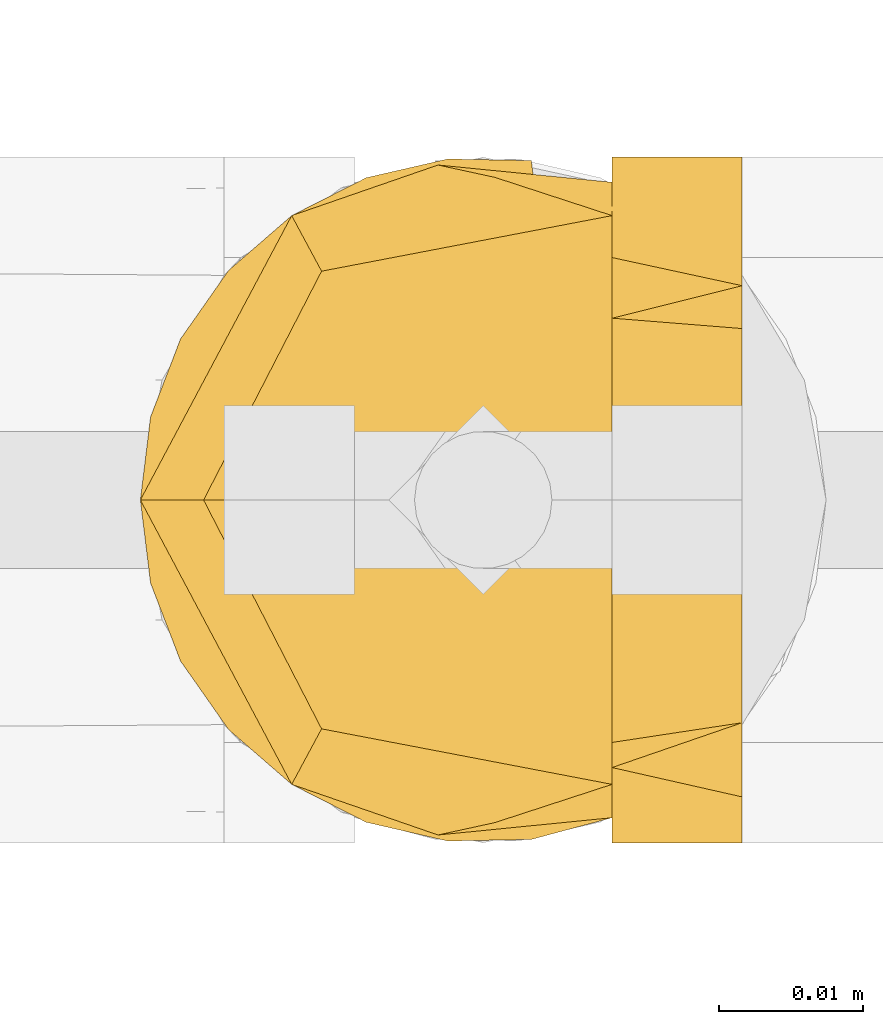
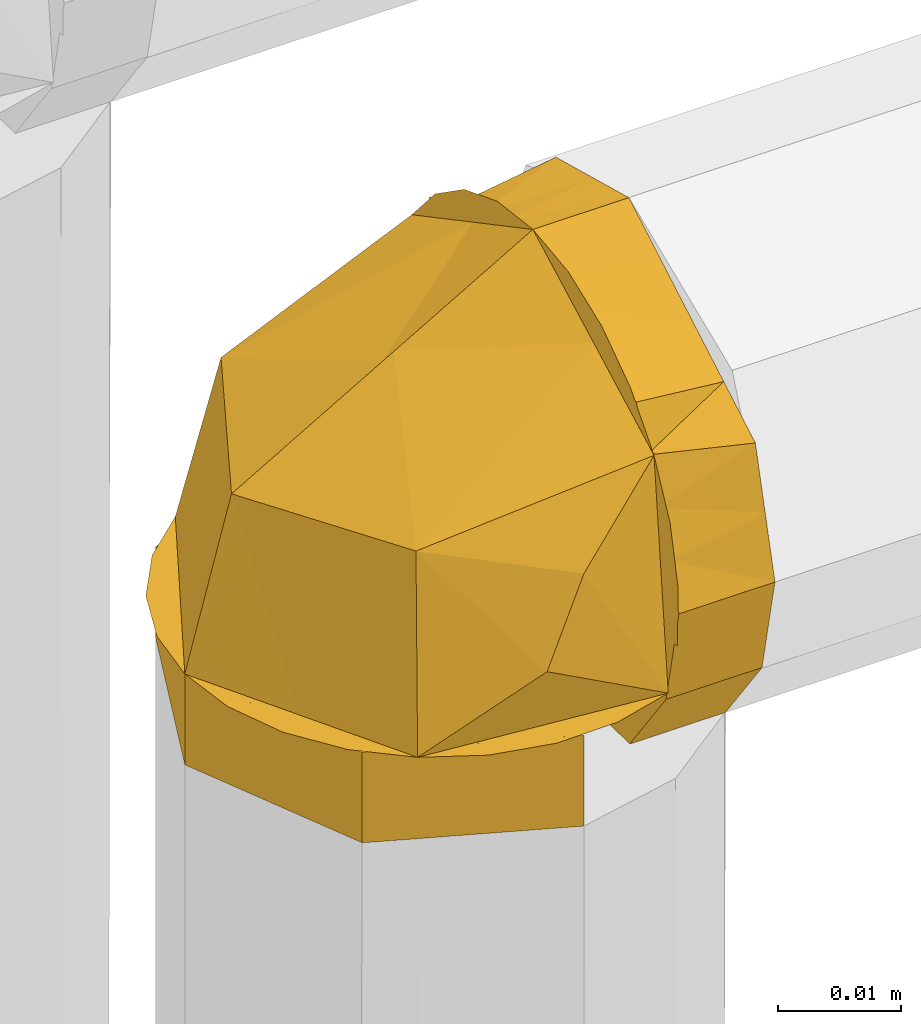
# One storey, part 326 of 652: 1 covering.
"""IFC2X3 building model written with IfcOpenShell, lengths in millimetres."""

from ifc_helpers import new_model, entity, si_unit, converted_unit, direction, frame, origin, place, context, subcontext, project, spatial, face_set, surface_model, material, type_object, element, save


model = new_model("IFC2X3")

# Units and contexts
model_context = context("Model", 3, precision=0.01, world=frame((0.0, 0.0, 308426.39999999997)), true_north=direction((6.123233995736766e-17, 1.0)))
plan_context = context("Plan", 3, precision=0.01, world=frame((0.0, 0.0, 308426.39999999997)), true_north=direction((6.123233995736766e-17, 1.0)))
body_context = subcontext(model_context, "Body", "Model", "MODEL_VIEW")
ifc_project = project(units=[si_unit("LENGTHUNIT", "METRE", prefix="MILLI"), si_unit("AREAUNIT", "SQUARE_METRE"), si_unit("VOLUMEUNIT", "CUBIC_METRE"), converted_unit("PLANEANGLEUNIT", "DEGREE", entity("IfcPlaneAngleMeasure", 0.017453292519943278), si_unit("PLANEANGLEUNIT", "RADIAN"), dimensions=[0, 0, 0, 0, 0, 0, 0])], contexts=[model_context, plan_context])

# Site, building, storey
site_placement = place(None, origin())
site = spatial("IfcSite", under=ifc_project, at=site_placement, Name="Default", CompositionType="ELEMENT")
building_placement = place(site_placement, origin())
building = spatial("IfcBuilding", under=site, at=building_placement, CompositionType="ELEMENT")
storey_placement = place(building_placement, frame((0.0, 0.0, 1730.6999999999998)))
storey = spatial("IfcBuildingStorey", under=building, at=storey_placement, Name="EG_Produktion_FFB", CompositionType="ELEMENT", Elevation=1730.6999999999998)

# Covering
ifc_material = material(Name="Dämmung - Armaflex-Schlauch")
covering_type = type_object("IfcCoveringType", Name="Rohrdämmung außen:Armaflex-Schlauch", PredefinedType="INSULATION")
covering_placement = place(storey_placement, frame((41284.00441089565, 54866.678785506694, 3280.611079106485)))
element("IfcCovering", 1, at=covering_placement, inside=storey, type_object=covering_type, material=ifc_material, Name="Rohrdämmung außen:Armaflex-Schlauch", ObjectType="Rohrdämmung außen:Armaflex-Schlauch", PredefinedType="INSULATION", context=body_context, shape_type="SurfaceModel", body=[
    surface_model("IfcFaceBasedSurfaceModel", [(34.28827223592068, 3.3372686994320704, 10.458420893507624), (28.691896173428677, 1.8303409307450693, 10.458420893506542), (22.897179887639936, 1.7230119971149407, 10.458420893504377), (17.248839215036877, 3.0216666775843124, 10.458420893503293), (12.082882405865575, 5.649050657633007, 10.45842089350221), (7.706621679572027, 9.448866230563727, 10.458420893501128), (4.380391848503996, 14.19507012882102, 10.458420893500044), (2.3020635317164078, 19.605320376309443, 10.458420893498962), (1.5952722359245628, 25.35777223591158, 10.458420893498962), (2.3020635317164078, 31.11022409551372, 10.458420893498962), (4.380391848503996, 36.52047434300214, 10.458420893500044), (7.706621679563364, 41.266678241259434, 10.458420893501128), (12.082882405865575, 45.06649381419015, 10.45842089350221), (17.248839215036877, 47.69387779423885, 10.458420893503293), (22.897179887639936, 48.99253247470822, 10.458420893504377), (28.691896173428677, 48.88520354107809, 10.458420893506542), (34.28827223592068, 47.37827577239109, 10.458420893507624), (34.28827223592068, 1.8303409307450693, 16.05479695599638), (34.28827223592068, 1.7230119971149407, 21.849513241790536), (34.28827223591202, 3.0216666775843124, 27.49785391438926), (34.28827223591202, 5.649050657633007, 32.6638107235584), (34.28827223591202, 9.448866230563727, 37.04007144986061), (34.28827223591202, 14.19507012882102, 40.366301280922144), (34.28827223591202, 19.605320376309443, 42.44462959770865), (34.28827223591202, 25.35777223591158, 43.151420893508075), (34.28827223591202, 31.11022409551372, 42.44462959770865), (34.28827223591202, 36.52047434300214, 40.366301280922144), (34.28827223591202, 41.266678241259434, 37.04007144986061), (34.28827223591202, 45.06649381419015, 32.66381072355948), (34.28827223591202, 47.69387779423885, 27.497853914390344), (34.28827223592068, 48.99253247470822, 21.849513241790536), (34.28827223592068, 48.88520354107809, 16.05479695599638), (26.167085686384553, 2.9999376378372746, 25.365208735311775), (14.153865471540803, 9.497215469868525, 27.87959014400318), (34.28752025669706, 4.478917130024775, 21.43230926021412), (6.777571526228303, 15.617772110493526, 10.458560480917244), (5.977620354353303, 25.356712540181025, 26.80465575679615), (34.28752025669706, 15.501500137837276, 37.90746642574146), (21.218550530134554, 25.356712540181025, 35.606444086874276), (22.223140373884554, 2.1395250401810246, 17.53836089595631), (23.185872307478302, 4.4928697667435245, 10.458560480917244), (26.167085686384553, 47.71813832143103, 25.365208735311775), (22.223140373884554, 48.57390004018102, 17.53836089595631), (14.153865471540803, 41.21620961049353, 27.87959014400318), (6.777571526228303, 35.095652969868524, 10.458560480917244), (34.28752025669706, 46.234507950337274, 21.43230926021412), (34.28752025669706, 35.095652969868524, 37.96850921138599), (20.130244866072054, 25.356712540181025, 34.977994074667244), (23.185872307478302, 46.220555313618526, 10.458560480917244), (25.357832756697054, 1.5953722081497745, 1.4387622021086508), (25.357832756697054, 1.5953722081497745, 10.458560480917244), (8.554207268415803, 8.553087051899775, 10.458560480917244), (8.554207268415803, 8.553087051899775, 1.4387622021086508), (1.596492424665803, 25.356712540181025, 10.458560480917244), (1.596492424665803, 25.356712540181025, 1.4387622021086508), (8.554207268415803, 42.16033802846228, 10.458560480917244), (8.554207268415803, 42.16033802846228, 1.4387622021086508), (25.357832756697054, 49.118052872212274, 10.458560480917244), (25.357832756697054, 49.118052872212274, 1.4387622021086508), (43.30802223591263, 46.14995973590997, 24.533653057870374), (43.30802223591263, 43.179647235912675, 29.67838522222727), (43.30802223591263, 40.209334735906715, 34.823117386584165), (43.30802223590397, 37.239022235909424, 39.96784955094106), (43.30802223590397, 31.29839723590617, 41.55963522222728), (43.30802223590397, 25.35777223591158, 43.15142089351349), (43.30802223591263, 20.21304007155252, 40.18110839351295), (43.30802223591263, 15.068307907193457, 37.210795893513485), (43.30802223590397, 9.92357574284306, 34.240483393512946), (43.30802223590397, 4.778843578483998, 31.270170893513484), (43.30802223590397, 3.1870579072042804, 25.32954589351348), (43.30802223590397, 1.5952722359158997, 19.38892089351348), (43.30802223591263, 2.6431209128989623, 14.510241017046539), (43.30802223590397, 3.690969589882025, 9.631561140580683), (43.30802223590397, 6.64968879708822, 5.613416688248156), (43.30802223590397, 9.608408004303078, 1.595272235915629), (43.30802223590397, 41.107136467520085, 1.595272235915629), (43.30802223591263, 44.06585567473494, 5.613416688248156), (43.30802223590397, 47.024574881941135, 9.631561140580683), (43.30802223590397, 48.0724235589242, 14.510241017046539), (43.30802223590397, 49.12027223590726, 19.38892089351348), (34.28827223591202, 42.160397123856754, 36.19154578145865), (34.28827223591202, 43.90036590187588, 31.990889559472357), (34.28827223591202, 45.64033467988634, 27.790233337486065), (34.28827223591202, 47.3803034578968, 23.589577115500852), (34.28827223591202, 49.12027223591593, 19.38892089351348), (34.28827223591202, 48.0724235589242, 14.510241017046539), (34.28827223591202, 47.024574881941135, 9.6315611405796), (34.28827223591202, 43.985875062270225, 5.5047975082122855), (34.28827223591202, 41.10713646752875, 1.595272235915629), (34.28827223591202, 9.608408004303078, 1.595272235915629), (34.28827223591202, 6.64968879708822, 5.613416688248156), (34.28827223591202, 3.690969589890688, 9.6315611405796), (34.28827223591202, 2.614795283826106, 14.64212234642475), (34.28827223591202, 1.5952722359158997, 19.38892089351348), (34.28827223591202, 3.3352410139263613, 23.58957711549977), (34.28827223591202, 5.075209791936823, 27.790233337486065), (34.28827223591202, 6.815178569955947, 31.990889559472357), (34.28827223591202, 8.55514734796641, 36.19154578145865), (34.28827223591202, 12.755803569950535, 37.93151455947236), (34.28827223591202, 16.956459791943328, 39.67148333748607), (34.28827223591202, 21.157116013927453, 41.41145211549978), (34.28827223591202, 25.35777223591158, 43.15142089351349), (34.28827223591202, 29.558428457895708, 41.41145211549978), (34.28827223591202, 33.759084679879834, 39.67148333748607), (34.28827223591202, 37.95974090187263, 37.93151455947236)], [face_set([[[0, 1, 2, 3, 4, 5, 6, 7, 8, 9, 10, 11, 12, 13, 14, 15]], [[16, 17, 18, 19, 20, 21, 22, 23, 24, 25, 26, 27, 28, 29, 30, 31]], [[32, 20, 33]], [[32, 34, 20]], [[33, 35, 4]], [[35, 33, 36]], [[36, 8, 35]], [[33, 37, 38]], [[39, 4, 40]], [[32, 33, 39]], [[34, 32, 0]], [[4, 39, 33]], [[38, 36, 33]], [[0, 32, 39]], [[33, 20, 37]], [[37, 24, 38]], [[0, 39, 40]], [[41, 16, 42]], [[43, 44, 36]], [[28, 45, 41]], [[46, 43, 47]], [[44, 8, 36]], [[12, 43, 42]], [[44, 43, 12]], [[42, 16, 48]], [[28, 43, 46]], [[16, 41, 45]], [[43, 41, 42]], [[43, 36, 47]], [[47, 24, 46]], [[28, 41, 43]], [[48, 12, 42]]]), face_set([[[49, 50, 51, 52]], [[53, 54, 52, 51]], [[54, 53, 55, 56]], [[57, 58, 56, 55]]]), face_set([[[59, 60, 61, 62, 63, 64, 65, 66, 67, 68, 69, 70, 71, 72, 73, 74, 75, 76, 77, 78, 79]], [[80, 81, 82, 83, 84, 85, 86, 87, 88, 89, 90, 91, 92, 93, 94, 95, 96, 97, 98, 99, 100, 101, 102, 103, 104]], [[75, 74, 89, 88]], [[71, 70, 93, 92, 91, 72]], [[73, 72, 91, 90, 89, 74]], [[96, 67, 97]], [[64, 100, 65]], [[100, 99, 65]], [[69, 95, 94]], [[94, 93, 70]], [[67, 96, 68]], [[66, 99, 98]], [[64, 101, 100]], [[99, 66, 65]], [[70, 69, 94]], [[98, 97, 67]], [[96, 95, 68]], [[69, 68, 95]], [[66, 98, 67]], [[104, 61, 80]], [[79, 83, 59]], [[83, 82, 59]], [[63, 103, 102]], [[102, 101, 64]], [[61, 104, 62]], [[60, 82, 81]], [[79, 84, 83]], [[82, 60, 59]], [[64, 63, 102]], [[81, 80, 61]], [[104, 103, 62]], [[63, 62, 103]], [[60, 81, 61]], [[76, 75, 88, 87, 86, 77]], [[78, 77, 86, 85, 84, 79]]])]),
])

save(model, "model.ifc")
